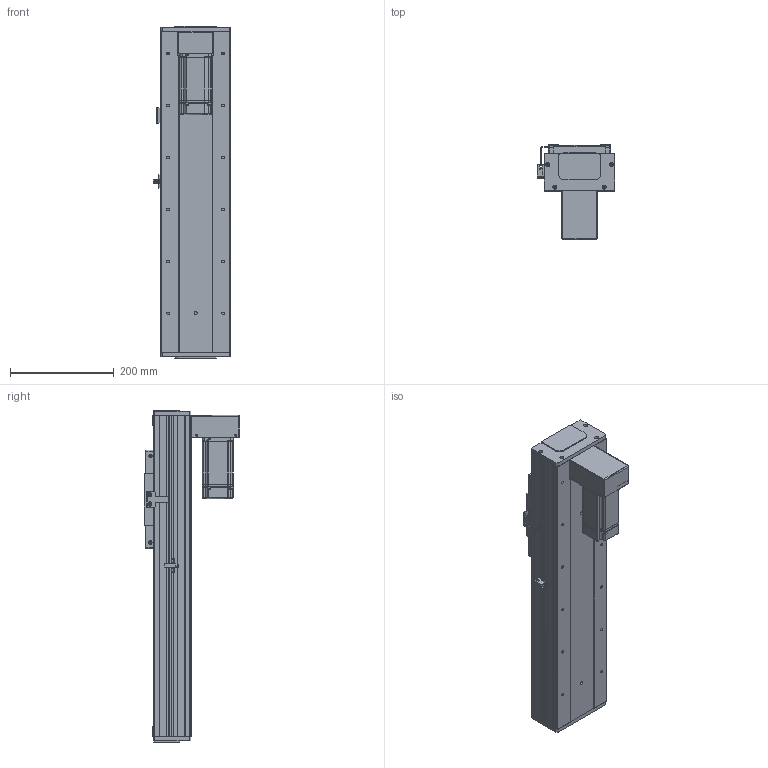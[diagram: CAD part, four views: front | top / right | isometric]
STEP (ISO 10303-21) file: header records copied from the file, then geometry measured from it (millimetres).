
FILE_DESCRIPTION (( 'STEP AP203' ), '1' );
FILE_NAME ('RY140F-L2020-300-BK.SLDASM_350.step', '2021-03-02T08:26:32', ( '盈信电脑' ), ( '东莞市道滘镇水果街19号' ), 'SwSTEP 2.0', 'SolidWorks 2012', '' );
FILE_SCHEMA (( 'CONFIG_CONTROL_DESIGN' ));
Products named in the file (21): RY140F-直连型材铝滑块(16丝杆); RY140F-L2020-300-BK.SLDASM_350; RY140F-詩湍嘐隅輸; 滅袉蝶18-10; RY140F-狟殏萇儂欶(400W); RY140F-狟殏萇儂啣(400W M5); RY140F-672覜茼んえ; RY140F-詩湍揤え; 覜茼ん672; 侐源滅袉蝶; RY100F-詩湍揤踡謫; 15; RY140F-后盖板(铝件）; 侂狟400W侜督萇儂; 藻笠沭; RY140F-滅鳥奻裔; RY140F-詩湍幗謫粣; RY140F-300-BK倰第菁釱_350; RY140F-直连型材铝滑块连接座; RY140F-300-BK蛌殏詩湍_350; RY140F-300-BK倰第奻裔啣_350
Assembly tree (26 placements, depth 3):
  RY140F-L2020-300-BK.SLDASM_350
    RY140F-300-BK倰第菁釱_350
    RY140F-300-BK倰第奻裔啣_350  x2
    RY140F-300-BK蛌殏詩湍_350
    RY140F-直连型材铝滑块连接座
    RY140F-滅鳥奻裔
    RY140F-詩湍幗謫粣
    藻笠沭  x2
    RY100F-詩湍揤踡謫
    RY140F-后盖板(铝件）  x2
    侂狟400W侜督萇儂
      15
    覜茼ん672
    RY140F-672覜茼んえ
    RY140F-詩湍揤え  x2
    侐源滅袉蝶  x2
    RY140F-狟殏萇儂啣(400W M5)
    RY140F-狟殏萇儂欶(400W)
    RY140F-詩湍嘐隅輸
    滅袉蝶18-10  x2
    RY140F-直连型材铝滑块(16丝杆)
Bounding box: 148.7 x 184.5 x 639 mm (x, y, z)
Volume: 2892334.3 mm3; surface area: 1014994.9 mm2
Topology: 25 solids, 25 shells, 1956 faces, 5360 edges, 3434 vertices
Faces by surface type: cylinder 939, plane 811, cone 180, bspline 22, torus 4
Entity records: 61772 total; most frequent: CARTESIAN_POINT 13073, DIRECTION 9791, ORIENTED_EDGE 9588, EDGE_CURVE 4794, AXIS2_PLACEMENT_3D 3480, VERTEX_POINT 3138, LINE 2831, VECTOR 2831
